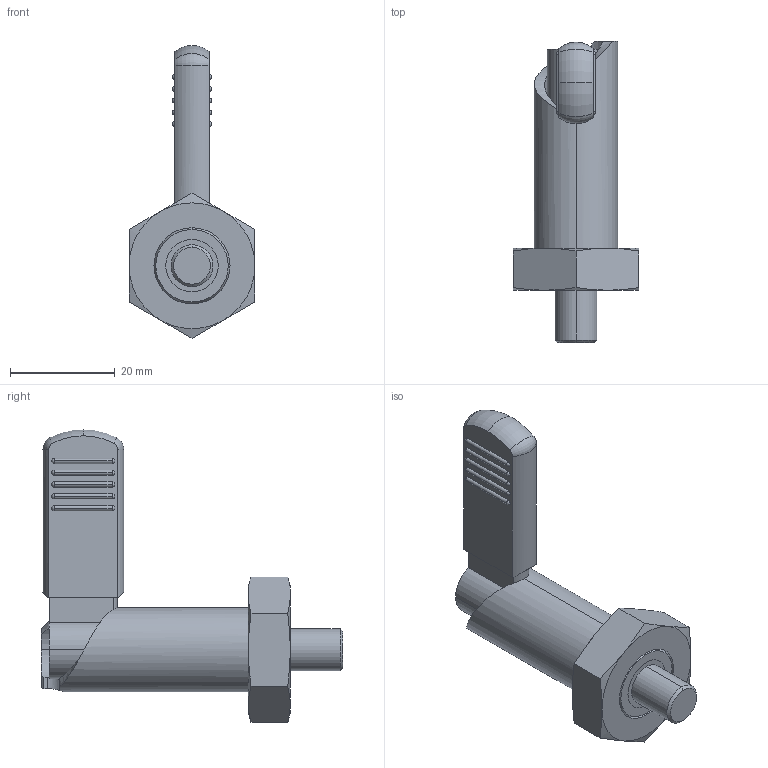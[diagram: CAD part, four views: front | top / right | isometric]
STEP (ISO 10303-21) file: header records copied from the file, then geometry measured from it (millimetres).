
FILE_DESCRIPTION (( 'STEP AP214' ), '1' );
FILE_NAME ('721.6-8-M16X1,5-LBK.step', '2022-11-23T13:31:22', ( '' ), ( '' ), 'SwSTEP 2.0', 'SolidWorks 2022', '' );
FILE_SCHEMA (( 'AUTOMOTIVE_DESIGN' ));
Length unit declared in the file: millimetre
Products named in the file (4): WB721.6_Hebel^WB721.6_8-M16x1,5-B-NI; WB721.6_Führung^WB721.6_M16X1,5-LA; WB8675^WB721.6_M16x1,5-NI; 721.6-8-M16X1,5-LBK
Assembly tree (3 placements, depth 2):
  721.6-8-M16X1,5-LBK
    WB721.6_Führung^WB721.6_M16X1,5-LA
    WB721.6_Hebel^WB721.6_8-M16x1,5-B-NI
    WB8675^WB721.6_M16x1,5-NI
Bounding box: 24 x 57.5 x 55.84 mm (x, y, z)
Volume: 14449.4 mm3; surface area: 8831 mm2
Topology: 3 solids, 3 shells, 117 faces, 288 edges, 173 vertices
Faces by surface type: cylinder 44, plane 29, sphere 20, cone 18, torus 4, bspline 2
Entity records: 4546 total; most frequent: CARTESIAN_POINT 1108, DIRECTION 602, ORIENTED_EDGE 536, EDGE_CURVE 268, AXIS2_PLACEMENT_3D 258, VERTEX_POINT 173, EDGE_LOOP 137, CIRCLE 137
